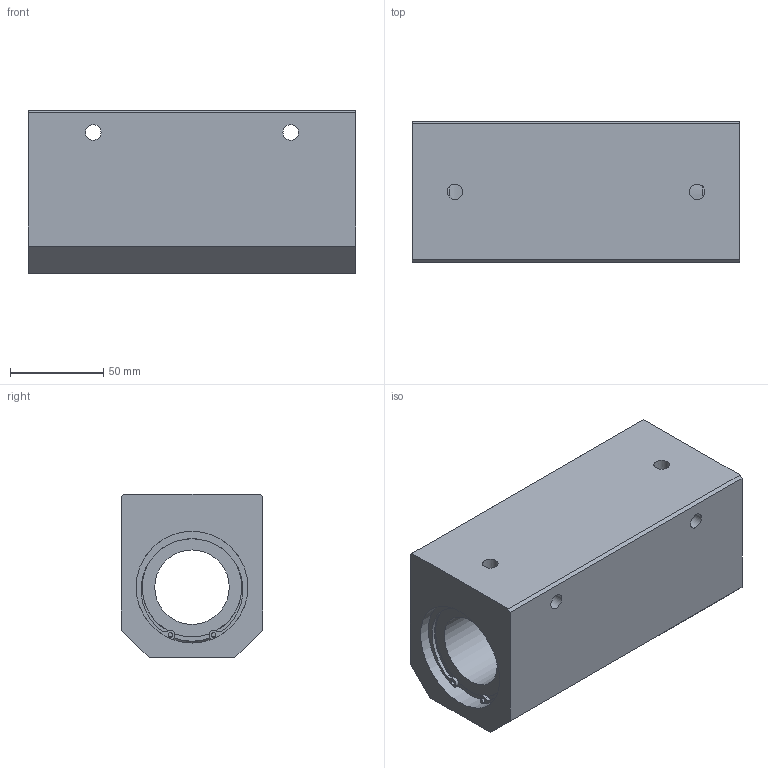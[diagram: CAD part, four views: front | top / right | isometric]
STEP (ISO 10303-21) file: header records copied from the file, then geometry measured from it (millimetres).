
FILE_DESCRIPTION((''),'2;1');
FILE_NAME('D:\製品 (図面)\カタログ用3D\リニアベアリング関連(改)\STEP形式\CHW\CHW40.stp','2010-01-25T09:42:13',('Tsuchiya'),(''),'Autodesk Inventor 10','Autodesk Inventor 10','');
FILE_SCHEMA(('AUTOMOTIVE_DESIGN { 1 0 10303 214 1 1 1 1 }'));
Length unit declared in the file: millimetre
Products named in the file (1): CHW40
Bounding box: 176 x 76 x 88 mm (x, y, z)
Volume: 875693.8 mm3; surface area: 104072 mm2
Topology: 1 solids, 4 shells, 90 faces, 223 edges, 139 vertices
Faces by surface type: bspline 40, plane 28, cylinder 20, torus 2
Full cylindrical faces by diameter (mm): 2.5 x2, 40 x1, 53.4 x2, 57 x2, 60 x7
Entity records: 2884 total; most frequent: CARTESIAN_POINT 980, DIRECTION 384, ORIENTED_EDGE 346, EDGE_CURVE 173, AXIS2_PLACEMENT_3D 166, EDGE_LOOP 148, VERTEX_POINT 121, CIRCLE 115
